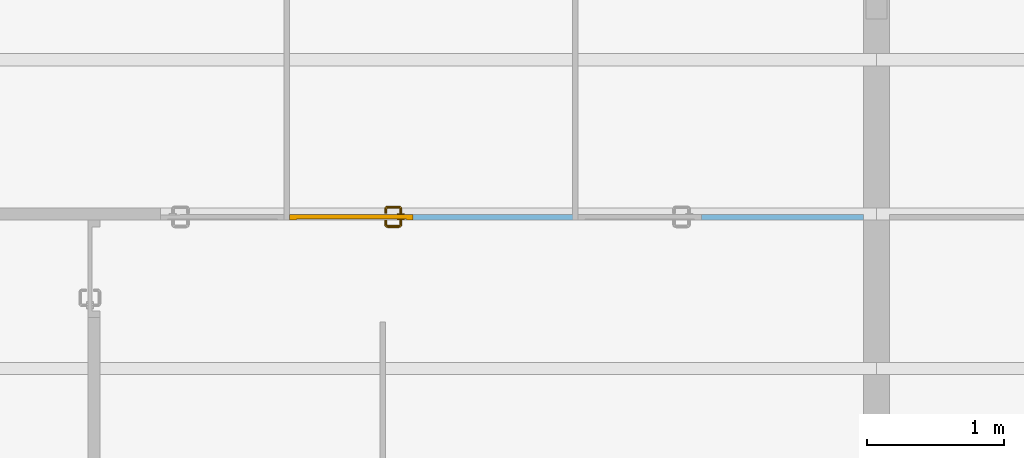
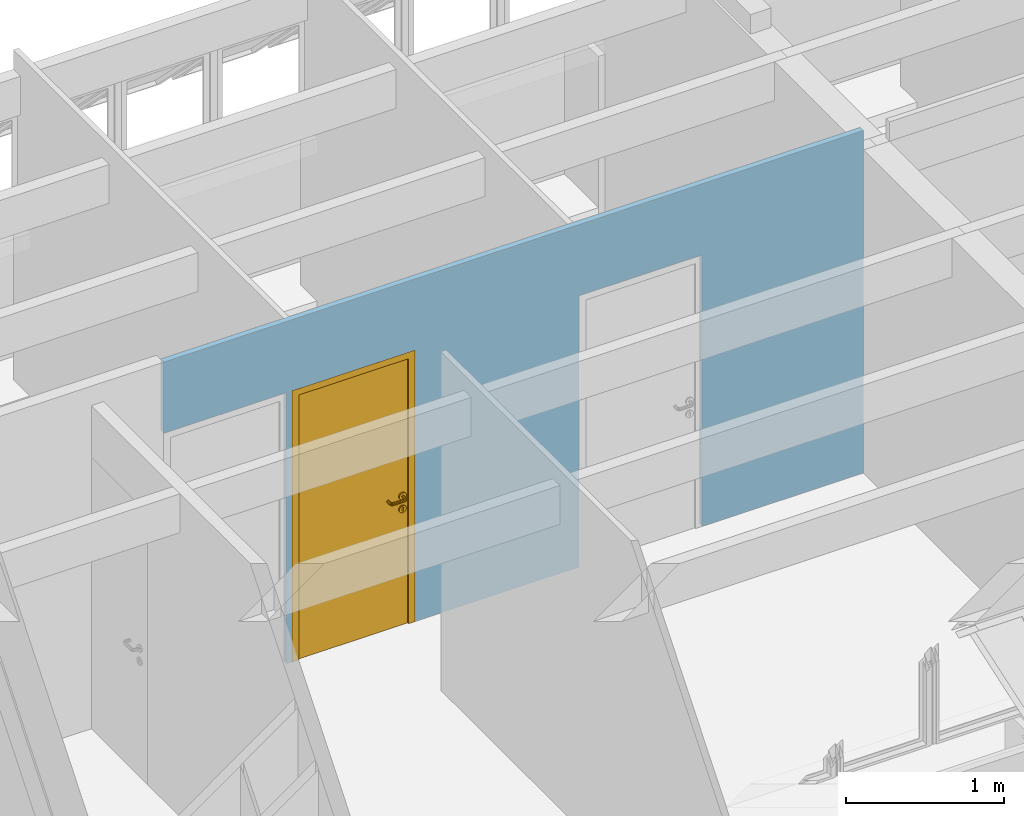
# One storey, part 12 of 22: 1 door, 3 openings, plus 1 element that does not belong to this part.
"""IFC2X3 building model written with IfcOpenShell, lengths in millimetres."""

from ifc_helpers import new_model, si_unit, direction, frame, frame_2d, origin_with_axes, place, context, subcontext, project, spatial, polyline, rectangle, outline, extrude, open_shell, faceted_brep, surface_model, source, transform, mapped, material, layer, layer_set, layer_usage, type_object, type_shapes, element, fill, save


model = new_model("IFC2X3")

# Units and contexts
model_context = context("Model", 3, precision=1e-05, world=origin_with_axes(), true_north=direction((0.0, 1.0)))
body_context = subcontext(model_context, "Body", "Model", "MODEL_VIEW")
ifc_project = project(units=[si_unit("LENGTHUNIT", "METRE", prefix="MILLI"), si_unit("AREAUNIT", "SQUARE_METRE"), si_unit("VOLUMEUNIT", "CUBIC_METRE"), si_unit("PLANEANGLEUNIT", "RADIAN"), si_unit("TIMEUNIT", "SECOND"), si_unit("MASSUNIT", "GRAM")], contexts=[model_context])

# Site, building, storey
site_placement = place(None, origin_with_axes())
site = spatial("IfcSite", under=ifc_project, at=site_placement, Name="Site", CompositionType="ELEMENT")
building_placement = place(site_placement, origin_with_axes())
building = spatial("IfcBuilding", under=site, at=building_placement, Name="Construção", CompositionType="COMPLEX")
storey_placement = place(building_placement, frame((0.0, 0.0, 2650.0), z_axis=(0.0, 0.0, 1.0), x_axis=(1.0, 0.0, 0.0)))
storey = spatial("IfcBuildingStorey", under=building, at=storey_placement, Name="Segundo Pavimento", CompositionType="COMPLEX", Elevation=2650.0)

# Wall, openings, door
ifc_material = material(Name="GENÉRICO - VEDAÇÃO EXTERNA")
ifc_layer = layer(ifc_material, 40.0)
ifc_layer_set = layer_set([ifc_layer], Name="GENÉRICO - VEDAÇÃO EXTERNA 40")
ifc_layer_usage = layer_usage(ifc_layer_set, "AXIS2", "POSITIVE", 0.0)
wall_type = type_object("IfcWallType", Name="GENÉRICO - VEDAÇÃO EXTERNA 40", PredefinedType="STANDARD", material=ifc_layer_set)
wall_placement = place(storey_placement, frame((2170.0, 22394.78043329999, 0.0), z_axis=(0.0, 0.0, 1.0), x_axis=(0.9999999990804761, 4.288412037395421e-05, 0.0)))
wall = element("IfcWallStandardCase", 1, at=wall_placement, inside=storey, type_object=wall_type, material=ifc_layer_usage, Name="APTO7-PAREDE-006", context=body_context, shape_type="SweptSolid", body=[
    extrude(outline(polyline([(-2560.000216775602, -20.00000000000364), (-2559.999359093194, 19.99999999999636), (2559.999787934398, 19.99999999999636), (2559.999787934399, -20.00000000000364), (-2560.000216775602, -20.00000000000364)])), frame((2560.000216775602, 20.0, 0.0), z_axis=(0.0, 0.0, 1.0), x_axis=(1.0, 0.0, 0.0)), (0.0, 0.0, 1.0), 2650.0),
])
opening_1_placement = place(wall_placement, frame((1840.000004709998, 40.0, 0.0), z_axis=(0.0, 0.0, 1.0), x_axis=(-1.0, 0.0, 0.0)))
opening_1 = element("IfcOpeningElement", 2, at=opening_1_placement, cuts=wall, ObjectType="Opening", context=body_context, shape_type="SweptSolid", body=[
    extrude(outline(polyline([(450.0, 1050.0), (450.0, -1050.0), (-450.0, -1050.0), (-450.0, 1050.0), (450.0, 1050.0)])), frame((450.0, 1.364242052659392e-12, 1050.000000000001), z_axis=(0.0, 1.0, 0.0), x_axis=(1.0, 0.0, 0.0)), (0.0, 0.0, 1.0), 120.0),
])
opening_2_placement = place(wall_placement, frame((900.0000047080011, 40.0, 0.0), z_axis=(0.0, 0.0, 1.0), x_axis=(-1.0, 0.0, 0.0)))
element("IfcOpeningElement", 3, at=opening_2_placement, cuts=wall, ObjectType="Opening", context=body_context, shape_type="SweptSolid", body=[
    extrude(outline(polyline([(-450.0, -1050.0), (-450.0, 1050.0), (450.0, 1050.0), (450.0, -1050.0), (-450.0, -1050.0)])), frame((450.0, 1.364242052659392e-12, 1050.000000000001), z_axis=(0.0, 1.0, 0.0), x_axis=(1.0, 0.0, 0.0)), (0.0, 0.0, 1.0), 120.0),
])
opening_3_placement = place(wall_placement, frame((3940.00000471, 40.0, 0.0), z_axis=(0.0, 0.0, 1.0), x_axis=(-1.0, 0.0, 0.0)))
element("IfcOpeningElement", 4, at=opening_3_placement, cuts=wall, ObjectType="Opening", context=body_context, shape_type="SweptSolid", body=[
    extrude(outline(polyline([(450.0, 1050.0), (450.0, -1050.0), (-450.0, -1050.0), (-450.0, 1050.0), (450.0, 1050.0)])), frame((450.0, 1.364242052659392e-12, 1050.000000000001), z_axis=(0.0, 1.0, 0.0), x_axis=(1.0, 0.0, 0.0)), (0.0, 0.0, 1.0), 120.0),
])
door_style = type_object("IfcDoorStyle", Name="Porta 25", ConstructionType="NOTDEFINED", OperationType="SINGLE_SWING_LEFT", ParameterTakesPrecedence=False, Sizeable=False)
shared_shape_1 = source(origin_with_axes(), body_context, "Body", "SolidModel", [
    extrude(outline(polyline([(10.0, 6.666666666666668), (10.0, -23.33333333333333), (-30.0, -23.33333333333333), (-30.0, 16.66666666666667), (20.0, 16.66666666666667), (20.0, 6.666666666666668), (10.0, 6.666666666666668)])), frame((29.9999999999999, 0.0, -23.33333333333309), z_axis=(0.0, 1.0, 0.0), x_axis=(1.0, 0.0, 0.0)), (0.0, 0.0, 1.0), 2050.0),
])
shared_shape_2 = source(origin_with_axes(), body_context, "Body", "SolidModel", [
    extrude(outline(polyline([(-10.0, 6.666666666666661), (-20.0, 6.666666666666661), (-20.0, 16.66666666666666), (30.0, 16.66666666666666), (30.0, -23.33333333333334), (-10.0, -23.33333333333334), (-10.0, 6.666666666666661)])), frame((869.9999999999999, 0.0, -23.3333333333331), z_axis=(0.0, 1.0, 0.0), x_axis=(1.0, 0.0, 0.0)), (0.0, 0.0, 1.0), 2050.0),
])
shared_shape_3 = source(origin_with_axes(), body_context, "Body", "SolidModel", [
    faceted_brep([(899.9999999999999, 2050.0, -39.99999999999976), (0.0, 2050.0, -39.99999999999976), (0.0, 2100.0, -39.99999999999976), (899.9999999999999, 2100.0, -39.99999999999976), (859.9999999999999, 2050.0, -29.99999999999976), (859.9999999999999, 2060.0, -29.99999999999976), (39.99999999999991, 2060.0, -29.99999999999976), (39.99999999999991, 2050.0, -29.99999999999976), (39.99999999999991, 2050.0, 0.0), (39.99999999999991, 2060.0, 0.0), (0.0, 2050.0, 0.0), (0.0, 2100.0, 0.0), (899.9999999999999, 2100.0, 0.0), (899.9999999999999, 2050.0, 0.0), (859.9999999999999, 2050.0, 0.0), (859.9999999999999, 2060.0, 0.0)], [[[0, 1, 2, 3]], [[4, 5, 6, 7]], [[8, 7, 6, 9]], [[10, 11, 2, 1]], [[11, 12, 3, 2]], [[12, 13, 0, 3]], [[4, 7, 8, 10, 1, 0, 13, 14]], [[15, 5, 4, 14]], [[9, 6, 5, 15]], [[9, 15, 14, 13, 12, 11, 10, 8]]]),
])
shared_shape_4 = source(origin_with_axes(), body_context, "Body", "SolidModel", [
    extrude(outline(polyline([(0.0, 27.00000000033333), (13.49999999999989, 23.38268590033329), (23.38268590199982, 13.50000000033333), (26.99999999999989, 3.333298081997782e-10), (23.38268590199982, -13.49999999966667), (13.49999999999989, -23.38268590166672), (0.0, -26.99999999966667), (-13.50000000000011, -23.38268590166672), (-23.38268590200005, -13.49999999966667), (-27.0, 3.333298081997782e-10), (-23.38268590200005, 13.50000000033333), (-13.50000000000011, 23.38268590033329), (0.0, 27.00000000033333)])), frame((90.0, 999.9999999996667, -40.0), z_axis=(0.0, 0.0, 1.0), x_axis=(1.0, 0.0, 0.0)), (0.0, 0.0, 1.0), 10.0),
])
shared_shape_5 = source(origin_with_axes(), body_context, "Body", "SolidModel", [
    faceted_brep([(67.48333950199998, 913.0, -39.0), (67.48333950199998, 913.0, -30.0), (64.0, 900.0, -30.0), (64.0, 900.0, -39.0), (67.48333950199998, 887.0, -39.0), (67.48333950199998, 887.0, -30.0), (77.0, 877.483339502, -30.0), (77.0, 877.483339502, -39.0), (66.61731409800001, 886.5, -30.0), (66.61731409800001, 886.5, -40.0), (76.5, 876.617314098, -40.0), (76.5, 876.617314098, -30.0), (63.0, 900.0, -30.0), (63.0, 900.0, -40.0), (76.5, 923.382685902, -30.0), (76.5, 923.382685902, -40.0), (66.61731409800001, 913.5, -40.0), (66.61731409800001, 913.5, -30.0), (90.0, 874.0, -30.0), (90.0, 874.0, -39.0), (90.0, 926.0, -30.0), (103.0, 922.516660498, -30.0), (112.516660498, 913.0, -30.0), (116.0, 900.0, -30.0), (112.516660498, 887.0, -30.0), (103.0, 877.483339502, -30.0), (77.0, 922.516660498, -30.0), (113.382685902, 913.5, -30.0), (103.5, 923.382685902, -30.0), (90.0, 927.0, -30.0), (90.0, 873.0, -30.0), (103.5, 876.617314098, -30.0), (113.382685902, 886.5, -30.0), (117.0, 900.0, -30.0), (90.0, 873.0, -40.0), (77.0, 922.516660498, -39.0), (103.5, 876.617314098, -40.0), (113.382685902, 886.5, -40.0), (117.0, 900.0, -40.0), (112.516660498, 887.0, -39.0), (116.0, 900.0, -39.0), (103.0, 877.483339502, -39.0), (82.53216922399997, 909.692280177, -40.0), (82.53216922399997, 909.692280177, -39.0), (85.0, 904.4, -39.0), (85.0, 904.4, -40.0), (90.0, 927.0, -40.0), (112.516660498, 913.0, -39.0), (90.0, 926.0, -39.0), (103.0, 922.516660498, -39.0), (85.0, 887.5, -39.0), (85.0, 887.5, -40.0), (86.46446609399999, 883.964466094, -40.0), (86.46446609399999, 883.964466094, -39.0), (90.0, 882.5, -40.0), (90.0, 882.5, -39.0), (93.53553390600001, 883.964466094, -40.0), (93.53553390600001, 883.964466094, -39.0), (95.0, 887.5, -40.0), (95.0, 887.5, -39.0), (84.62481768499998, 915.143815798, -40.0), (84.62481768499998, 915.143815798, -39.0), (83.279754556, 911.639806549, -39.0), (83.279754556, 911.639806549, -40.0), (90.0, 917.425445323, -40.0), (90.0, 917.425445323, -39.0), (103.5, 923.382685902, -40.0), (113.382685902, 913.5, -40.0), (95.37518231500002, 915.143815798, -40.0), (95.37518231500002, 915.143815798, -39.0), (96.720245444, 911.639806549, -39.0), (97.46783077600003, 909.692280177, -39.0), (95.0, 904.4, -39.0), (95.0, 904.4, -40.0), (97.46783077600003, 909.692280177, -40.0), (96.720245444, 911.639806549, -40.0)], [[[0, 1, 2, 3]], [[4, 5, 6, 7]], [[3, 2, 5, 4]], [[8, 9, 10, 11]], [[12, 13, 9, 8]], [[14, 15, 16, 17]], [[7, 6, 18, 19]], [[20, 21, 22, 23, 24, 25, 18, 6, 5, 2, 1, 26], [27, 28, 29, 14, 17, 12, 8, 11, 30, 31, 32, 33]], [[17, 16, 13, 12]], [[11, 10, 34, 30]], [[35, 26, 1, 0]], [[30, 34, 36, 31]], [[31, 36, 37, 32]], [[32, 37, 38, 33]], [[39, 24, 23, 40]], [[41, 25, 24, 39]], [[42, 43, 44, 45]], [[29, 46, 15, 14]], [[40, 23, 22, 47]], [[48, 20, 26, 35]], [[47, 22, 21, 49]], [[19, 18, 25, 41]], [[44, 50, 51, 45]], [[52, 51, 50, 53]], [[54, 52, 53, 55]], [[49, 21, 20, 48]], [[56, 54, 55, 57]], [[58, 56, 57, 59]], [[60, 61, 62, 43, 42, 63]], [[64, 65, 61, 60]], [[28, 66, 46, 29]], [[33, 38, 67, 27]], [[27, 67, 66, 28]], [[68, 69, 65, 64]], [[47, 49, 48, 35, 0, 3, 4, 7, 19, 41, 39, 40], [69, 70, 71, 72, 59, 57, 55, 53, 50, 44, 43, 62, 61, 65]], [[73, 72, 71, 74]], [[73, 58, 59, 72]], [[74, 71, 70, 69, 68, 75]], [[66, 67, 38, 37, 36, 34, 10, 9, 13, 16, 15, 46], [74, 75, 68, 64, 60, 63, 42, 45, 51, 52, 54, 56, 58, 73]]], outer=[[True], [True], [True], [True], [True], [True], [True], [False, True], [True], [True], [True], [True], [True], [True], [True], [True], [True], [True], [True], [True], [True], [True], [True], [True], [True], [True], [True], [True], [True], [True], [True], [True], [True], [True], [True, False], [True], [True], [True], [True, False]]),
])
shared_shape_6 = source(origin_with_axes(), body_context, "Body", "SurfaceModel", [
    surface_model("IfcShellBasedSurfaceModel", [(190.0, 1000.0, -69.0150859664), (190.0, 1000.0, -40.0), (192.928932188, 1007.07106781, -40.0), (192.928932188, 1007.07106781, -69.303560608), (189.438398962, 1000.0, -71.83844504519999), (192.197392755, 1007.07106781, -72.9812576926), (192.928932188, 992.928932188, -69.303560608), (192.928932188, 992.928932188, -40.0), (192.197392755, 992.928932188, -72.9812576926), (200.0, 990.0, -70.0), (200.0, 990.0, -40.0), (200.0, 1010.0, -40.0), (200.0, 1010.0, -70.0), (207.071067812, 992.928932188, -70.696439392), (207.071067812, 992.928932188, -40.0), (210.0, 1000.0, -40.0), (207.071067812, 1007.07106781, -40.0), (205.518993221, 992.928932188, -78.49924527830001), (198.858192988, 990.0, -75.74025148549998), (210.0, 1000.0, -70.9849140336), (208.277987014, 1000.0, -79.6420579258), (207.071067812, 1007.07106781, -70.696439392), (205.518993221, 1007.07106781, -78.49924527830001), (200.704557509, 1007.07106781, -85.70455750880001), (202.816199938, 1000.0, -87.8161999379), (198.858192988, 1010.0, -75.74025148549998), (195.606601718, 1010.0, -80.6066017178), (190.740251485, 1010.0, -83.8581929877), (193.499245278, 1007.07106781, -90.51899322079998), (190.508645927, 1007.07106781, -75.5086459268), (187.981257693, 1007.07106781, -77.19739275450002), (188.397003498, 1000.0, -73.39700349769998), (186.838445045, 1000.0, -74.43839896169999), (190.508645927, 992.928932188, -75.5086459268), (200.704557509, 992.928932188, -85.70455750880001), (195.606601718, 990.0, -80.6066017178), (187.981257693, 992.928932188, -77.19739275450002), (184.303560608, 992.928932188, -77.92893218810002), (184.015085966, 1000.0, -75.0), (190.740251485, 990.0, -83.8581929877), (184.303560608, 1007.07106781, -77.92893218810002), (185.0, 1010.0, -85.0), (105.984914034, 1000.0, -75.0), (105.696439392, 1007.07106781, -77.92893218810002), (105.0, 1010.0, -85.0), (185.696439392, 1007.07106781, -92.07106781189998), (104.303560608, 1007.07106781, -92.07106781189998), (105.696439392, 992.928932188, -77.92893218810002), (185.0, 990.0, -85.0), (102.018742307, 1007.07106781, -77.19739275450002), (99.25974851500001, 1010.0, -83.8581929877), (193.499245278, 992.928932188, -90.51899322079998), (105.0, 990.0, -85.0), (102.018742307, 992.928932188, -77.19739275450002), (103.161554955, 1000.0, -74.43839896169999), (99.491354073, 992.928932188, -75.5086459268), (101.602996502, 1000.0, -73.39700349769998), (99.491354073, 1007.07106781, -75.5086459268), (194.642057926, 1000.0, -93.2779870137), (185.696439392, 992.928932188, -92.07106781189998), (185.984914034, 1000.0, -95.0), (104.015085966, 1000.0, -95.0), (104.303560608, 992.928932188, -92.07106781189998), (99.25974851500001, 990.0, -83.8581929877), (95.357942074, 1000.0, -93.2779870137), (96.50075472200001, 992.928932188, -90.51899322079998), (96.50075472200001, 1007.07106781, -90.51899322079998), (89.29544249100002, 1007.07106781, -85.70455750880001), (87.18380006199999, 1000.0, -87.8161999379), (94.39339828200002, 1010.0, -80.6066017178), (97.80260724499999, 1007.07106781, -72.9812576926), (91.14180701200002, 1010.0, -75.74025148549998), (84.48100677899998, 1007.07106781, -78.49924527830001), (94.39339828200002, 990.0, -80.6066017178), (91.14180701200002, 990.0, -75.74025148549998), (97.80260724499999, 992.928932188, -72.9812576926), (89.29544249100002, 992.928932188, -85.70455750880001), (100.561601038, 1000.0, -71.83844504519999), (97.07106781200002, 992.928932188, -69.303560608), (100.0, 1000.0, -69.0150859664), (97.07106781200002, 1007.07106781, -69.303560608), (97.07106781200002, 992.928932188, -40.0), (100.0, 1000.0, -40.0), (90.0, 1010.0, -70.0), (97.07106781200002, 1007.07106781, -40.0), (90.0, 1010.0, -40.0), (82.92893218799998, 1007.07106781, -70.696439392), (82.92893218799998, 1007.07106781, -40.0), (90.0, 990.0, -40.0), (90.0, 990.0, -70.0), (84.48100677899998, 992.928932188, -78.49924527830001), (81.72201298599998, 1000.0, -79.6420579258), (82.92893218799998, 992.928932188, -70.696439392), (80.0, 1000.0, -70.9849140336), (82.92893218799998, 992.928932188, -40.0), (80.0, 1000.0, -40.0)], [open_shell([[[0, 1, 2, 3]], [[4, 0, 3, 5]], [[6, 7, 1, 0]], [[8, 6, 0, 4]], [[9, 10, 7, 6]], [[3, 2, 11, 12]], [[13, 14, 10, 9]], [[15, 16, 11, 2, 1, 7, 10, 14]], [[17, 13, 9, 18]], [[19, 15, 14, 13]], [[20, 19, 13, 17]], [[21, 16, 15, 19]], [[22, 21, 19, 20]], [[12, 11, 16, 21]], [[23, 22, 20, 24]], [[25, 12, 21, 22]], [[26, 25, 22, 23]], [[5, 3, 12, 25]], [[27, 26, 23, 28]], [[29, 5, 25, 26]], [[30, 29, 26, 27]], [[31, 4, 5, 29]], [[32, 31, 29, 30]], [[33, 8, 4, 31]], [[18, 9, 6, 8]], [[34, 17, 18, 35]], [[36, 33, 31, 32]], [[35, 18, 8, 33]], [[37, 36, 32, 38]], [[39, 35, 33, 36]], [[38, 32, 30, 40]], [[40, 30, 27, 41]], [[42, 38, 40, 43]], [[44, 41, 45, 46]], [[47, 37, 38, 42]], [[48, 39, 36, 37]], [[43, 40, 41, 44]], [[49, 43, 44, 50]], [[51, 34, 35, 39]], [[24, 20, 17, 34]], [[52, 48, 37, 47]], [[53, 47, 42, 54]], [[54, 42, 43, 49]], [[55, 53, 54, 56]], [[56, 54, 49, 57]], [[28, 23, 24, 58]], [[41, 27, 28, 45]], [[59, 51, 39, 48]], [[58, 24, 34, 51]], [[45, 28, 58, 60]], [[60, 58, 51, 59]], [[46, 45, 60, 61]], [[61, 60, 59, 62]], [[63, 52, 47, 53]], [[62, 59, 48, 52]], [[64, 61, 62, 65]], [[65, 62, 52, 63]], [[66, 46, 61, 64]], [[67, 66, 64, 68]], [[50, 44, 46, 66]], [[57, 49, 50, 69]], [[69, 50, 66, 67]], [[70, 57, 69, 71]], [[71, 69, 67, 72]], [[73, 63, 53, 55]], [[74, 73, 55, 75]], [[76, 65, 63, 73]], [[75, 55, 56, 77]], [[77, 56, 57, 70]], [[78, 75, 77, 79]], [[79, 77, 70, 80]], [[81, 78, 79, 82]], [[80, 70, 71, 83]], [[82, 79, 80, 84]], [[84, 80, 83, 85]], [[85, 83, 86, 87]], [[88, 89, 78, 81]], [[89, 74, 75, 78]], [[90, 76, 73, 74]], [[68, 64, 65, 76]], [[72, 67, 68, 91]], [[83, 71, 72, 86]], [[92, 90, 74, 89]], [[91, 68, 76, 90]], [[86, 72, 91, 93]], [[94, 92, 89, 88]], [[93, 91, 90, 92]], [[87, 86, 93, 95]], [[95, 93, 92, 94]]])]),
])
shared_shape_7 = source(origin_with_axes(), body_context, "Body", "SolidModel", [
    extrude(outline(polyline([(0.0, 27.00000000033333), (13.49999999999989, 23.38268590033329), (23.38268590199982, 13.50000000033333), (26.99999999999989, 3.333298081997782e-10), (23.38268590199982, -13.49999999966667), (13.49999999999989, -23.38268590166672), (0.0, -26.99999999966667), (-13.50000000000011, -23.38268590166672), (-23.38268590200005, -13.49999999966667), (-27.0, 3.333298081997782e-10), (-23.38268590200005, 13.50000000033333), (-13.50000000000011, 23.38268590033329), (0.0, 27.00000000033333)])), frame((90.0, 999.9999999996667, 0.0), z_axis=(0.0, 0.0, 1.0), x_axis=(1.0, 0.0, 0.0)), (0.0, 0.0, 1.0), 10.0),
])
shared_shape_8 = source(origin_with_axes(), body_context, "Body", "SolidModel", [
    faceted_brep([(64.0, 900.0, 9.0), (67.48333950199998, 887.0, 9.0), (67.48333950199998, 887.0, 0.0), (64.0, 900.0, 0.0), (63.0, 900.0, 10.0), (63.0, 900.0, 0.0), (66.61731409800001, 886.5, 0.0), (66.61731409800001, 886.5, 10.0), (67.48333950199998, 913.0, 9.0), (67.48333950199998, 913.0, 0.0), (76.5, 876.617314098, 0.0), (76.5, 876.617314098, 10.0), (66.61731409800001, 913.5, 10.0), (66.61731409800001, 913.5, 0.0), (76.5, 923.382685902, 10.0), (76.5, 923.382685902, 0.0), (77.0, 877.483339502, 9.0), (77.0, 877.483339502, 0.0), (77.0, 922.516660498, 9.0), (77.0, 922.516660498, 0.0), (90.0, 873.0, 0.0), (90.0, 873.0, 10.0), (103.5, 876.617314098, 0.0), (103.5, 876.617314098, 10.0), (90.0, 927.0, 0.0), (103.5, 923.382685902, 0.0), (113.382685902, 913.5, 0.0), (117.0, 900.0, 0.0), (113.382685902, 886.5, 0.0), (112.516660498, 913.0, 0.0), (103.0, 922.516660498, 0.0), (90.0, 926.0, 0.0), (90.0, 874.0, 0.0), (103.0, 877.483339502, 0.0), (112.516660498, 887.0, 0.0), (116.0, 900.0, 0.0), (90.0, 882.5, 9.0), (86.46446609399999, 883.964466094, 9.0), (86.46446609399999, 883.964466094, 10.0), (90.0, 882.5, 10.0), (90.0, 927.0, 10.0), (85.0, 887.5, 9.0), (85.0, 887.5, 10.0), (113.382685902, 886.5, 10.0), (117.0, 900.0, 10.0), (113.382685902, 913.5, 10.0), (90.0, 874.0, 9.0), (103.0, 877.483339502, 9.0), (112.516660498, 887.0, 9.0), (103.5, 923.382685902, 10.0), (93.53553390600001, 883.964466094, 9.0), (93.53553390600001, 883.964466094, 10.0), (95.0, 887.5, 9.0), (95.0, 887.5, 10.0), (116.0, 900.0, 9.0), (112.516660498, 913.0, 9.0), (85.0, 904.4, 10.0), (85.0, 904.4, 9.0), (82.53216922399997, 909.692280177, 9.0), (82.53216922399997, 909.692280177, 10.0), (84.62481768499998, 915.143815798, 9.0), (84.62481768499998, 915.143815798, 10.0), (83.279754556, 911.639806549, 10.0), (83.279754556, 911.639806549, 9.0), (90.0, 917.425445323, 9.0), (90.0, 917.425445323, 10.0), (90.0, 926.0, 9.0), (103.0, 922.516660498, 9.0), (95.37518231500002, 915.143815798, 9.0), (95.37518231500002, 915.143815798, 10.0), (96.720245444, 911.639806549, 10.0), (97.46783077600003, 909.692280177, 10.0), (95.0, 904.4, 10.0), (95.0, 904.4, 9.0), (97.46783077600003, 909.692280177, 9.0), (96.720245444, 911.639806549, 9.0)], [[[0, 1, 2, 3]], [[4, 5, 6, 7]], [[8, 0, 3, 9]], [[7, 6, 10, 11]], [[12, 13, 5, 4]], [[14, 15, 13, 12]], [[1, 16, 17, 2]], [[18, 8, 9, 19]], [[11, 10, 20, 21]], [[21, 20, 22, 23]], [[24, 25, 26, 27, 28, 22, 20, 10, 6, 5, 13, 15], [29, 30, 31, 19, 9, 3, 2, 17, 32, 33, 34, 35]], [[36, 37, 38, 39]], [[40, 24, 15, 14]], [[37, 41, 42, 38]], [[43, 28, 27, 44]], [[44, 27, 26, 45]], [[23, 22, 28, 43]], [[16, 46, 32, 17]], [[46, 47, 33, 32]], [[47, 48, 34, 33]], [[49, 25, 24, 40]], [[50, 36, 39, 51]], [[52, 50, 51, 53]], [[45, 26, 25, 49]], [[48, 54, 35, 34]], [[54, 55, 29, 35]], [[56, 42, 41, 57]], [[58, 59, 56, 57]], [[60, 61, 62, 59, 58, 63]], [[64, 65, 61, 60]], [[66, 18, 19, 31]], [[67, 66, 31, 30]], [[55, 67, 30, 29]], [[68, 69, 65, 64]], [[45, 49, 40, 14, 12, 4, 7, 11, 21, 23, 43, 44], [69, 70, 71, 72, 53, 51, 39, 38, 42, 56, 59, 62, 61, 65]], [[73, 72, 71, 74]], [[73, 52, 53, 72]], [[74, 71, 70, 69, 68, 75]], [[66, 67, 55, 54, 48, 47, 46, 16, 1, 0, 8, 18], [74, 75, 68, 64, 60, 63, 58, 57, 41, 37, 36, 50, 52, 73]]]),
])
shared_shape_9 = source(origin_with_axes(), body_context, "Body", "SurfaceModel", [
    surface_model("IfcShellBasedSurfaceModel", [(192.928932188, 1007.07106781, 39.303560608), (200.0, 1010.0, 40.0), (200.0, 1010.0, 10.0), (192.928932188, 1007.07106781, 10.0), (190.0, 1000.0, 39.0150859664), (190.0, 1000.0, 10.0), (192.928932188, 992.928932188, 39.303560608), (192.928932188, 992.928932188, 10.0), (200.0, 990.0, 40.0), (200.0, 990.0, 10.0), (192.197392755, 992.928932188, 42.9812576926), (189.438398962, 1000.0, 41.8384450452), (210.0, 1000.0, 10.0), (207.071067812, 992.928932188, 10.0), (207.071067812, 1007.07106781, 10.0), (192.197392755, 1007.07106781, 42.9812576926), (188.397003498, 1000.0, 43.3970034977), (190.508645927, 1007.07106781, 45.5086459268), (195.606601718, 1010.0, 50.6066017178), (198.858192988, 1010.0, 45.7402514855), (207.071067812, 992.928932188, 40.696439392), (198.858192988, 990.0, 45.7402514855), (190.508645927, 992.928932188, 45.5086459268), (186.838445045, 1000.0, 44.4383989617), (187.981257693, 1007.07106781, 47.1973927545), (207.071067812, 1007.07106781, 40.696439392), (205.518993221, 1007.07106781, 48.4992452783), (210.0, 1000.0, 40.9849140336), (208.277987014, 1000.0, 49.6420579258), (205.518993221, 992.928932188, 48.4992452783), (105.696439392, 1007.07106781, 47.9289321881), (105.0, 1010.0, 55.0), (185.0, 1010.0, 55.0), (184.303560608, 1007.07106781, 47.9289321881), (200.704557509, 992.928932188, 55.7045575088), (195.606601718, 990.0, 50.6066017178), (190.740251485, 1010.0, 53.8581929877), (185.696439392, 1007.07106781, 62.0710678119), (193.499245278, 1007.07106781, 60.5189932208), (200.704557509, 1007.07106781, 55.7045575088), (202.816199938, 1000.0, 57.8161999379), (190.740251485, 990.0, 53.8581929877), (187.981257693, 992.928932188, 47.1973927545), (184.015085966, 1000.0, 45.0), (184.303560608, 992.928932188, 47.9289321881), (105.984914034, 1000.0, 45.0), (105.696439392, 992.928932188, 47.9289321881), (103.161554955, 1000.0, 44.4383989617), (102.018742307, 1007.07106781, 47.1973927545), (185.0, 990.0, 55.0), (194.642057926, 1000.0, 63.2779870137), (193.499245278, 992.928932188, 60.5189932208), (99.491354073, 1007.07106781, 45.5086459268), (94.39339828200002, 1010.0, 50.6066017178), (99.25974851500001, 1010.0, 53.8581929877), (185.984914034, 1000.0, 65.0), (185.696439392, 992.928932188, 62.0710678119), (104.015085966, 1000.0, 65.0), (104.303560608, 992.928932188, 62.0710678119), (104.303560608, 1007.07106781, 62.0710678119), (100.561601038, 1000.0, 41.8384450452), (97.80260724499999, 1007.07106781, 42.9812576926), (101.602996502, 1000.0, 43.3970034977), (105.0, 990.0, 55.0), (102.018742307, 992.928932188, 47.1973927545), (96.50075472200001, 1007.07106781, 60.5189932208), (89.29544249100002, 1007.07106781, 55.7045575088), (95.357942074, 1000.0, 63.2779870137), (91.14180701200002, 1010.0, 45.7402514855), (99.25974851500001, 990.0, 53.8581929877), (99.491354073, 992.928932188, 45.5086459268), (96.50075472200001, 992.928932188, 60.5189932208), (87.18380006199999, 1000.0, 57.8161999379), (89.29544249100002, 992.928932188, 55.7045575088), (94.39339828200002, 990.0, 50.6066017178), (100.0, 1000.0, 10.0), (97.07106781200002, 1007.07106781, 10.0), (97.07106781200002, 1007.07106781, 39.303560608), (100.0, 1000.0, 39.0150859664), (90.0, 1010.0, 10.0), (90.0, 1010.0, 40.0), (84.48100677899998, 1007.07106781, 48.4992452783), (82.92893218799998, 1007.07106781, 10.0), (82.92893218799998, 1007.07106781, 40.696439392), (81.72201298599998, 1000.0, 49.6420579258), (97.80260724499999, 992.928932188, 42.9812576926), (97.07106781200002, 992.928932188, 10.0), (97.07106781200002, 992.928932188, 39.303560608), (91.14180701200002, 990.0, 45.7402514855), (90.0, 990.0, 10.0), (90.0, 990.0, 40.0), (84.48100677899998, 992.928932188, 48.4992452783), (80.0, 1000.0, 40.9849140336), (82.92893218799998, 992.928932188, 40.696439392), (80.0, 1000.0, 10.0), (82.92893218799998, 992.928932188, 10.0)], [open_shell([[[0, 1, 2, 3]], [[4, 0, 3, 5]], [[6, 4, 5, 7]], [[8, 6, 7, 9]], [[10, 11, 4, 6]], [[12, 13, 9, 7, 5, 3, 2, 14]], [[11, 15, 0, 4]], [[16, 17, 15, 11]], [[17, 18, 19, 15]], [[20, 8, 9, 13]], [[21, 10, 6, 8]], [[22, 16, 11, 10]], [[23, 24, 17, 16]], [[15, 19, 1, 0]], [[1, 25, 14, 2]], [[19, 26, 25, 1]], [[25, 27, 12, 14]], [[27, 20, 13, 12]], [[28, 29, 20, 27]], [[30, 31, 32, 33]], [[29, 21, 8, 20]], [[34, 35, 21, 29]], [[33, 32, 36, 24]], [[24, 36, 18, 17]], [[32, 37, 38, 36]], [[18, 39, 26, 19]], [[26, 28, 27, 25]], [[36, 38, 39, 18]], [[39, 40, 28, 26]], [[35, 22, 10, 21]], [[41, 42, 22, 35]], [[42, 23, 16, 22]], [[43, 33, 24, 23]], [[44, 43, 23, 42]], [[45, 30, 33, 43]], [[46, 45, 43, 44]], [[47, 48, 30, 45]], [[49, 44, 42, 41]], [[38, 50, 40, 39]], [[40, 34, 29, 28]], [[51, 41, 35, 34]], [[52, 53, 54, 48]], [[37, 55, 50, 38]], [[50, 51, 34, 40]], [[56, 49, 41, 51]], [[55, 56, 51, 50]], [[57, 58, 56, 55]], [[48, 54, 31, 30]], [[31, 59, 37, 32]], [[60, 61, 52, 62]], [[63, 46, 44, 49]], [[64, 47, 45, 46]], [[62, 52, 48, 47]], [[58, 63, 49, 56]], [[54, 65, 59, 31]], [[59, 57, 55, 37]], [[53, 66, 65, 54]], [[65, 67, 57, 59]], [[61, 68, 53, 52]], [[69, 64, 46, 63]], [[70, 62, 47, 64]], [[67, 71, 58, 57]], [[72, 73, 71, 67]], [[71, 69, 63, 58]], [[73, 74, 69, 71]], [[66, 72, 67, 65]], [[74, 70, 64, 69]], [[75, 76, 77, 78]], [[76, 79, 80, 77]], [[77, 80, 68, 61]], [[68, 81, 66, 53]], [[79, 82, 83, 80]], [[80, 83, 81, 68]], [[81, 84, 72, 66]], [[85, 60, 62, 70]], [[78, 77, 61, 60]], [[86, 75, 78, 87]], [[88, 85, 70, 74]], [[87, 78, 60, 85]], [[89, 86, 87, 90]], [[91, 88, 74, 73]], [[90, 87, 85, 88]], [[83, 92, 84, 81]], [[84, 91, 73, 72]], [[93, 90, 88, 91]], [[82, 94, 92, 83]], [[92, 93, 91, 84]], [[95, 89, 90, 93]], [[94, 95, 93, 92]]])]),
])
shared_shape_10 = source(origin_with_axes(), body_context, "Body", "SolidModel", [
    extrude(rectangle(XDim=2060.0, YDim=820.0, at=frame_2d((0.0, 0.0), x_axis=(0.0, 1.0))), frame((449.9999999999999, 1030.0, -29.99999999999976), z_axis=(0.0, 0.0, 1.0), x_axis=(1.0, 0.0, 0.0)), (0.0, 0.0, 1.0), 30.0),
])
shared_shape_11 = source(origin_with_axes(), body_context, "Body", "MappedRepresentation", [
    mapped(shared_shape_1, transform((0.0, 0.0, 0.0))),
    mapped(shared_shape_2, transform((0.0, 0.0, 0.0))),
    mapped(shared_shape_3, transform((0.0, 0.0, 0.0))),
    mapped(shared_shape_4, transform((0.0, 0.0, 0.0))),
    mapped(shared_shape_5, transform((0.0, 0.0, 0.0))),
    mapped(shared_shape_6, transform((0.0, 0.0, 0.0))),
    mapped(shared_shape_7, transform((0.0, 0.0, 0.0))),
    mapped(shared_shape_8, transform((0.0, 0.0, 0.0))),
    mapped(shared_shape_9, transform((0.0, 0.0, 0.0))),
    mapped(shared_shape_10, transform((0.0, 0.0, 0.0))),
])
type_shapes(door_style, [shared_shape_11])
door_placement = place(opening_1_placement, origin_with_axes())
door = element("IfcDoor", 5, at=door_placement, inside=storey, type_object=door_style, Name="APTO7-PORTA-002", OverallHeight=2100.0, OverallWidth=900.0, context=body_context, shape_type="MappedRepresentation", body=[
    mapped(shared_shape_11, transform((0.0, 0.0, 0.0), x_axis=(1.0, 0.0, 0.0), y_axis=(0.0, 0.0, 1.0), z_axis=(0.0, -1.0, 0.0), scale=1.0)),
])
fill(opening_1, door)

save(model, "model.ifc")
